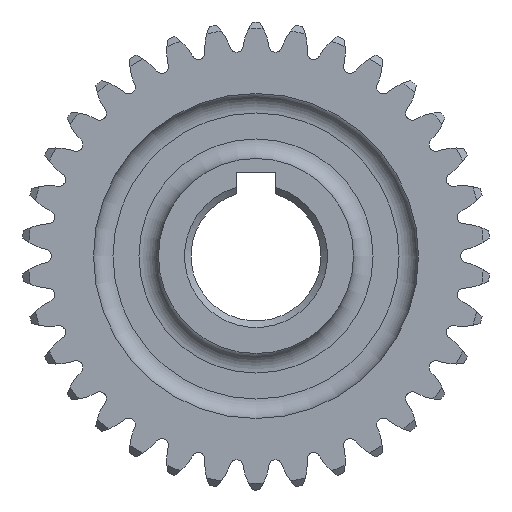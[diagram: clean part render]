
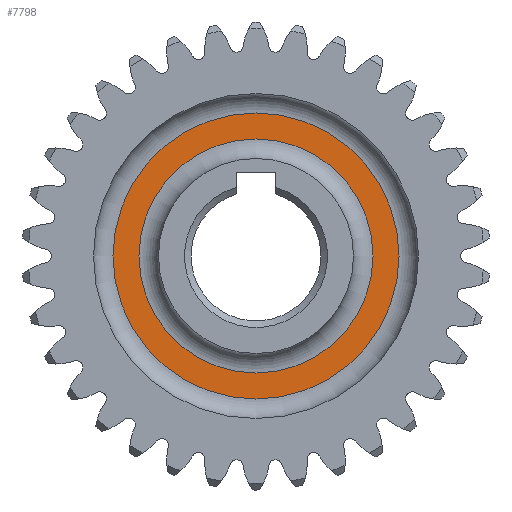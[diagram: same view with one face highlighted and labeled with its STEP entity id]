
A CAD part, front view. The second image highlights one B-rep face of the part: STEP entity #7798.
In plain terms, the highlighted planar face has unit normal (0, -1, 0).
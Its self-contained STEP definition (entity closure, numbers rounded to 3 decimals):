
#1321=PLANE('',#8381);
#1336=FACE_BOUND('',#1803,.T.);
#1350=FACE_OUTER_BOUND('',#1802,.T.);
#1802=EDGE_LOOP('',(#5301));
#1803=EDGE_LOOP('',(#5302));
#2363=CIRCLE('',#8379,18.);
#2365=CIRCLE('',#8382,22.);
#3117=VERTEX_POINT('',#12419);
#3119=VERTEX_POINT('',#12424);
#3990=EDGE_CURVE('',#3117,#3117,#2363,.T.);
#3992=EDGE_CURVE('',#3119,#3119,#2365,.T.);
#5301=ORIENTED_EDGE('',*,*,#3992,.T.);
#5302=ORIENTED_EDGE('',*,*,#3990,.F.);
#7798=ADVANCED_FACE('',(#1350,#1336),#1321,.F.);
#8379=AXIS2_PLACEMENT_3D('',#12420,#9703,#9704);
#8381=AXIS2_PLACEMENT_3D('',#12423,#9707,#9708);
#8382=AXIS2_PLACEMENT_3D('',#12425,#9709,#9710);
#9703=DIRECTION('center_axis',(0.,-1.,0.));
#9704=DIRECTION('ref_axis',(1.,0.,0.));
#9707=DIRECTION('center_axis',(0.,1.,0.));
#9708=DIRECTION('ref_axis',(0.,0.,1.));
#9709=DIRECTION('center_axis',(0.,-1.,0.));
#9710=DIRECTION('ref_axis',(1.,0.,0.));
#12419=CARTESIAN_POINT('',(0.,17.,18.));
#12420=CARTESIAN_POINT('Origin',(0.,17.,0.));
#12423=CARTESIAN_POINT('Origin',(0.,17.,22.));
#12424=CARTESIAN_POINT('',(0.,17.,22.));
#12425=CARTESIAN_POINT('Origin',(0.,17.,0.));
